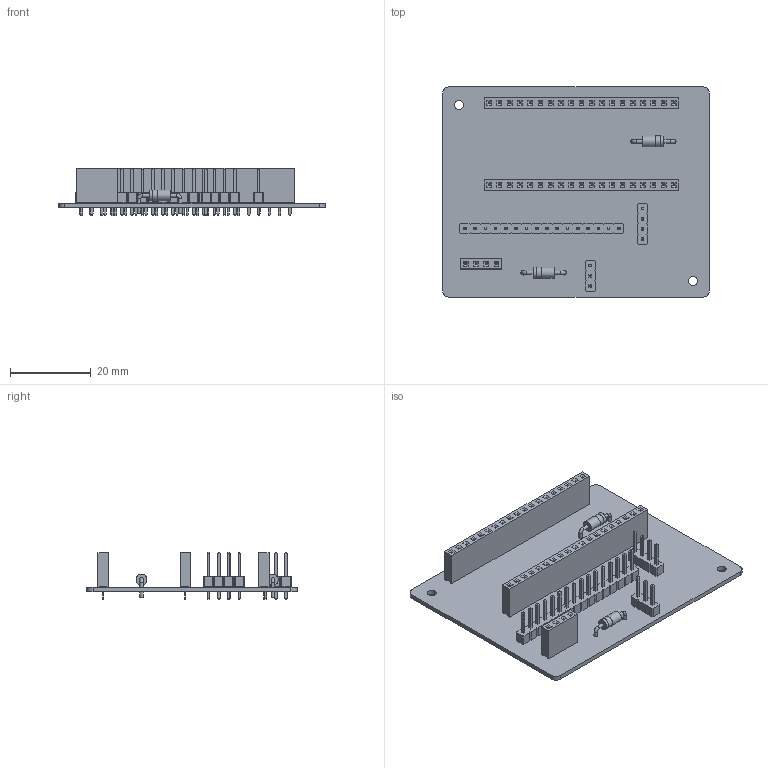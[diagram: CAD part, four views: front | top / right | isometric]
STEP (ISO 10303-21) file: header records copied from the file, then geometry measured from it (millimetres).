
FILE_DESCRIPTION(('KiCad electronic assembly'),'2;1');
FILE_NAME('bb1_wiring_board_v4.step','2026-11-26T15:29:20',('Pcbnew'),( 'Kicad'),'Open CASCADE STEP processor 7.9','KiCad to STEP converter' ,'Unknown');
FILE_SCHEMA(('AUTOMOTIVE_DESIGN { 1 0 10303 214 1 1 1 1 }'));
Length unit declared in the file: millimetre
Products named in the file (14): bb1_wiring_board_v4 1; PinHeader_1x04_P2.54mm_Vertical; PinHeader_1x04_P254mm_Vertical; PinSocket_1x19_P2.54mm_Vertical; D_DO-41_SOD81_P10.16mm_Horizontal; PinSocket_1x04_P2.54mm_Vertical; PinHeader_1x16_P2.54mm_Vertical; PinHeader_1x16_P254mm_Vertical; PinHeader_1x03_P2.54mm_Vertical; PinHeader_1x03_P254mm_Vertical; bb1_wiring_board_v4_PCB
Assembly tree (15 placements, depth 3):
  bb1_wiring_board_v4 1
    PinHeader_1x04_P2.54mm_Vertical
      PinHeader_1x04_P254mm_Vertical
    PinSocket_1x19_P2.54mm_Vertical  x2
      PinSocket_1x19_P2.54mm_Vertical
    D_DO-41_SOD81_P10.16mm_Horizontal  x2
      D_DO-41_SOD81_P10.16mm_Horizontal
    PinSocket_1x04_P2.54mm_Vertical
      PinSocket_1x04_P2.54mm_Vertical
    PinHeader_1x16_P2.54mm_Vertical
      PinHeader_1x16_P254mm_Vertical
    PinHeader_1x03_P2.54mm_Vertical
      PinHeader_1x03_P254mm_Vertical
    bb1_wiring_board_v4_PCB
Bounding box: 66 x 52 x 11.64 mm (x, y, z)
Volume: 6432.7 mm3; surface area: 12143.6 mm2
Topology: 9 solids, 9 shells, 1797 faces, 4563 edges, 2922 vertices
Faces by surface type: plane 1704, cylinder 89, torus 4
Full cylindrical faces by diameter (mm): 0.8 x8, 1 x65, 1.1 x4, 2.2 x2, 2.7 x4, 2.72 x2
Entity records: 49116 total; most frequent: CARTESIAN_POINT 6574, ORIENTED_EDGE 6448, DIRECTION 5978, EDGE_CURVE 3224, LINE 3058, VECTOR 3058, VERTEX_POINT 2056, FACE_BOUND 1516
